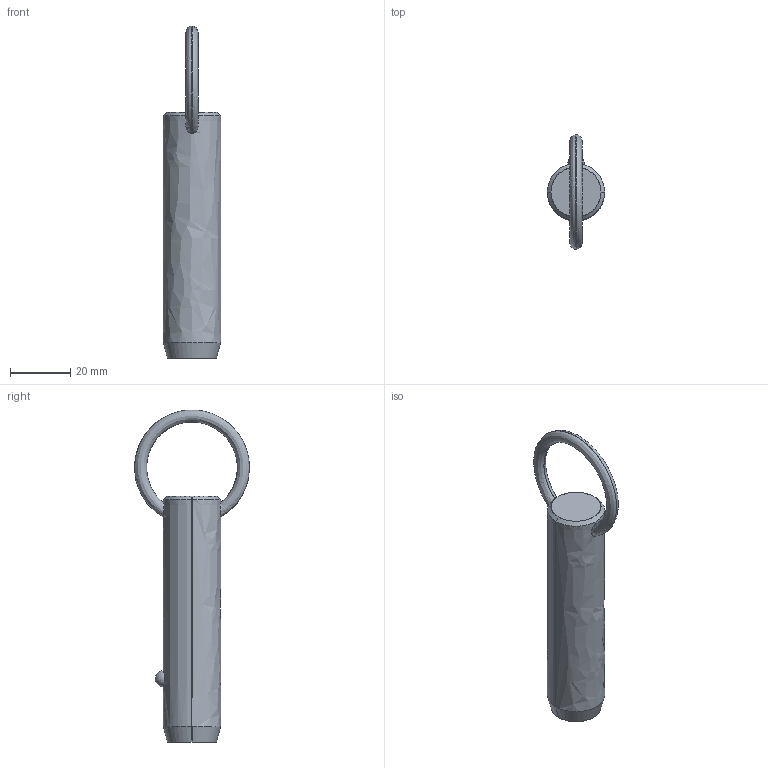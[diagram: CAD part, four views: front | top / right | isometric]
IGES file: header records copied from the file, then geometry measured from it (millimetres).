
Start section: SolidWorks IGES file using analytic representation for surfaces
Global section: file name: C:\Users\liam_\OneDrive\Documents\WORK\Work for WixRoyd\Job Files\J-00019 - Matt Davis CAD Checking\04. CAD Drawings\automotion20190605\P1250.2_v2\P1250.2_v2_20190729_IGES\P1250.075-190.igs; native system: SolidWorks 2017; preprocessor: SolidWorks 2017; author: liam_; date: 190729.234848; units: millimetre
Bounding box: 19 x 38.07 x 110.1 mm (x, y, z)
Surface area: 6397.6 mm2 (no closed solid volume)
Topology: 0 solids, 0 shells, 12 faces, 294 edges, 292 vertices
Faces by surface type: revolution 8, bspline 4
